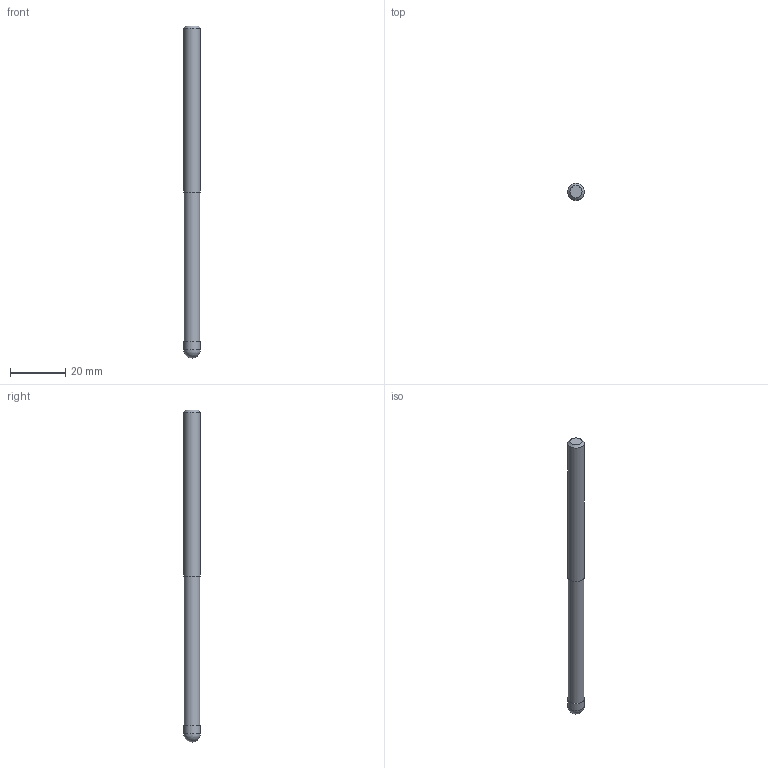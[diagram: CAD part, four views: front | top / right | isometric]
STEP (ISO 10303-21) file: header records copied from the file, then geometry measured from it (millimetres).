
FILE_DESCRIPTION((''),'2;1');
FILE_NAME('C:\Users\nsx150\AppData\Local\Temp\Mastercam 2021\ARV7HD45SN\TEMP.step','2023-06-13T16:39:57',(''),(''),'STEP Write','Mastercam 2021 ... CNC Software, Inc.','');
FILE_SCHEMA(('AUTOMOTIVE_DESIGN'));
Length unit declared in the file: millimetre
Products named in the file (1): None
Bounding box: 6 x 6 x 120 mm (x, y, z)
Volume: 3210.3 mm3; surface area: 2286.2 mm2
Topology: 2 solids, 2 shells, 9 faces, 13 edges, 8 vertices
Faces by surface type: plane 4, cylinder 3, sphere 1, cone 1
Full cylindrical faces by diameter (mm): 5.7 x1, 6 x2
Entity records: 211 total; most frequent: DIRECTION 36, CARTESIAN_POINT 25, AXIS2_PLACEMENT_3D 18, ORIENTED_EDGE 14, EDGE_LOOP 14, STYLED_ITEM 12, ADVANCED_FACE 9, FACE_BOUND 8
